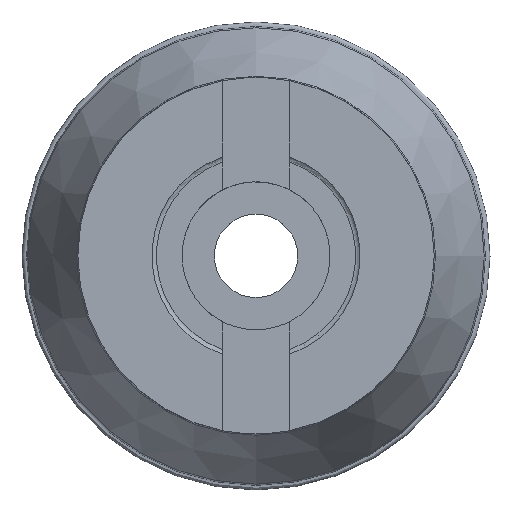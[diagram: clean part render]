
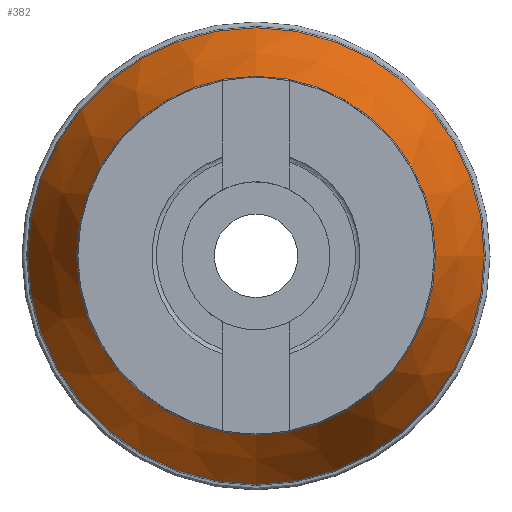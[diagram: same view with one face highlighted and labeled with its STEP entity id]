
A CAD part, top view. The second image highlights one B-rep face of the part: STEP entity #382.
In plain terms, the highlighted conical face has half-angle 24.819 degrees and reference radius 38.5 mm.
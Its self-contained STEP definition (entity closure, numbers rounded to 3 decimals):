
#160=CONICAL_SURFACE('',#668,38.5,24.819);
#171=EDGE_LOOP('',(#220));
#172=EDGE_LOOP('',(#221));
#220=ORIENTED_EDGE('',*,*,#312,.T.);
#221=ORIENTED_EDGE('',*,*,#313,.T.);
#312=EDGE_CURVE('',#454,#454,#351,.T.);
#313=EDGE_CURVE('',#455,#455,#352,.T.);
#351=CIRCLE('',#666,49.301);
#352=CIRCLE('',#667,38.777);
#382=ADVANCED_FACE('',(#417,#418),#160,.T.);
#417=FACE_BOUND('',#171,.T.);
#418=FACE_BOUND('',#172,.T.);
#454=VERTEX_POINT('',#999);
#455=VERTEX_POINT('',#1001);
#666=AXIS2_PLACEMENT_3D('',#998,#785,#786);
#667=AXIS2_PLACEMENT_3D('',#1000,#787,#788);
#668=AXIS2_PLACEMENT_3D('',#1002,#789,#790);
#785=DIRECTION('',(0.,0.,1.));
#786=DIRECTION('',(-1.,0.,0.));
#787=DIRECTION('',(0.,0.,-1.));
#788=DIRECTION('',(1.,0.,0.));
#789=DIRECTION('',(0.,0.,-1.));
#790=DIRECTION('',(1.,0.,0.));
#998=CARTESIAN_POINT('',(0.,0.,-33.354));
#999=CARTESIAN_POINT('',(-49.301,0.,-33.354));
#1000=CARTESIAN_POINT('',(0.,0.,-10.599));
#1001=CARTESIAN_POINT('',(38.777,0.,-10.599));
#1002=CARTESIAN_POINT('',(0.,0.,-10.));
